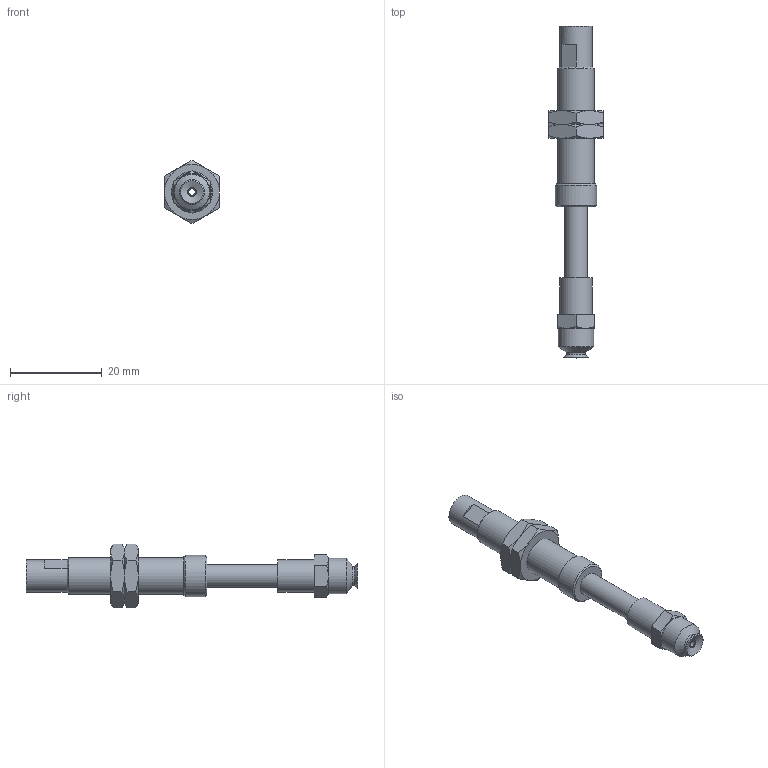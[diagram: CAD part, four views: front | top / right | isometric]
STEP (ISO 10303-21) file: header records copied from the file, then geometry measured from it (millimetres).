
FILE_DESCRIPTION(('STEP AP203'),'1');
FILE_NAME('-PE.stp','2025-04-11T07:51:57',(' '),(' '),'Spatial InterOp 3D',' ',' ');
FILE_SCHEMA(('CONFIG_CONTROL_DESIGN'));
Length unit declared in the file: millimetre
Products named in the file (9): BNABPFTS-5A-15-※-PE; NUT; BODY; STOPPER; ZIG; TN-PS-10-M5; Setting screws-TN-PS-10-M5; BPFG-5A-※
Assembly tree (8 placements, depth 3):
  BNABPFTS-5A-15-※-PE
    NUT
    NUT
    BODY
    STOPPER
    ZIG
    TN-PS-10-M5
      Setting screws-TN-PS-10-M5
    BPFG-5A-※
Bounding box: 12 x 72.5 x 13.86 mm (x, y, z)
Volume: 2966 mm3; surface area: 4501.2 mm2
Topology: 7 solids, 7 shells, 143 faces, 298 edges, 181 vertices
Faces by surface type: plane 60, cone 48, cylinder 26, torus 8, bspline 1
Full cylindrical faces by diameter (mm): 1.4 x1, 2 x2, 3.4 x1, 3.5 x1, 3.9 x1, 4 x5, 4.2 x2, 5 x3, 5.2 x1, 6 x2, 7 x2, 7.25 x2, 7.7 x1, 8 x1, 9 x1
Entity records: 3935 total; most frequent: CARTESIAN_POINT 760, DIRECTION 588, ORIENTED_EDGE 460, AXIS2_PLACEMENT_3D 266, EDGE_CURVE 230, EDGE_LOOP 222, FACE_OUTER_BOUND 178, VERTEX_POINT 166
